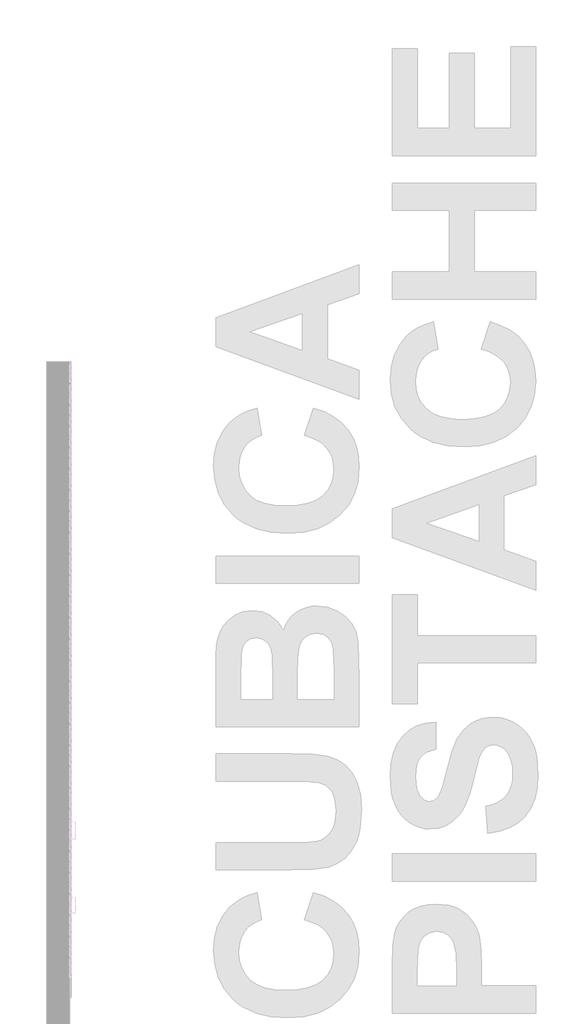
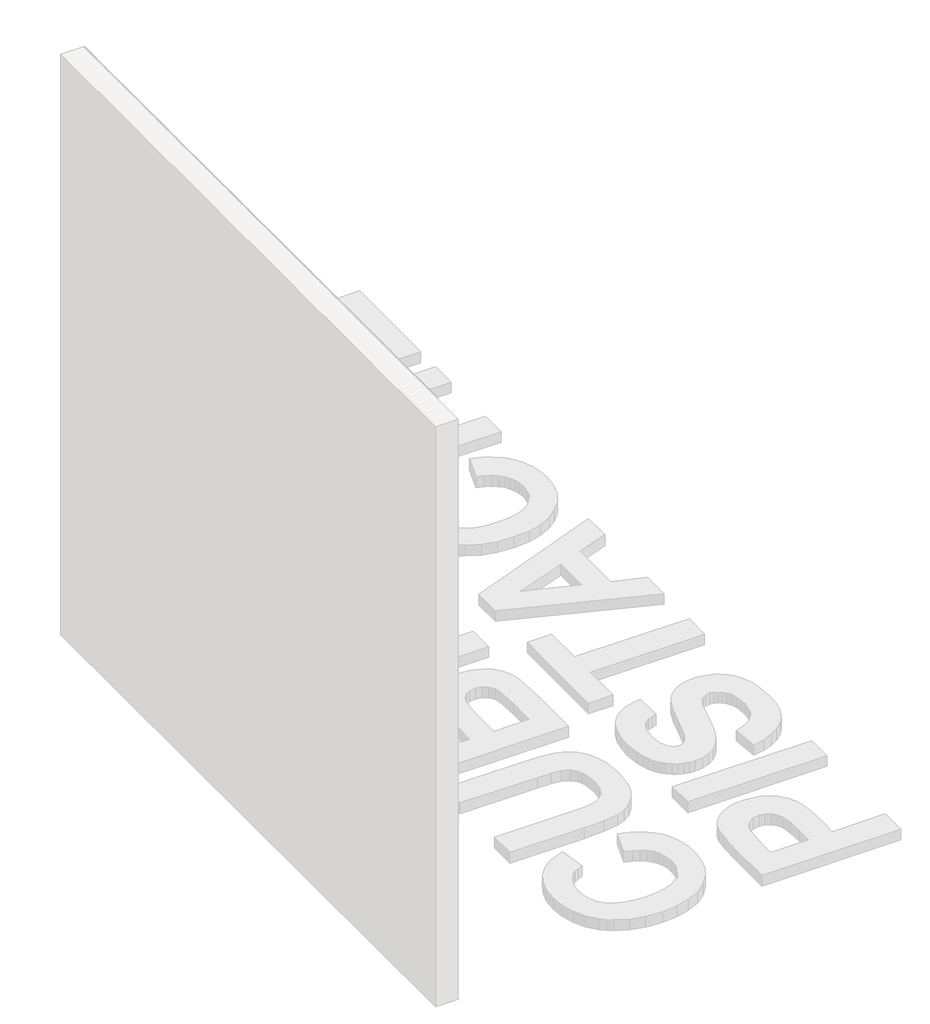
# One storey, part 96 of 121: 143 proxies.
"""IFC4 building model written with IfcOpenShell, lengths in millimetres."""

from ifc_helpers import new_model, si_unit, origin, place, context, project, spatial, transform, mapped, element, save
from components import generic_models_b2b2c5c1, generic_models_9bf73f6f, generic_models_5d175859, generic_models_336a48c1, generic_models_3c04e8e5, generic_models_0bb79e7c, generic_models_61989c10

model = new_model("IFC4")

# Units and contexts
model_context = context("Model", 3, world=origin())
ifc_project = project(units=[si_unit("LENGTHUNIT", "METRE", prefix="MILLI")], contexts=[model_context])

# Site, building, storey
site = spatial("IfcSite", under=ifc_project)
building = spatial("IfcBuilding", under=site)
storey = spatial("IfcBuildingStorey", under=building, Name="PORTOBELLO - SHOWROOM", Elevation=0.0)

# Proxies
placement = place(None, origin())
generic_models_shape = generic_models_b2b2c5c1(model_context)
element("IfcBuildingElementProxy", 1, Name="PBSHOP - CUBICA PISTACHE 4,8X8,3 : CUBICA PISTACHE - POSIÇÃO 01", ObjectType="PBSHOP - CUBICA PISTACHE 4,8X8,3 : CUBICA PISTACHE - POSIÇÃO 01", at=placement, inside=storey, context=model_context, shape_type="MappedRepresentation", body=[
    mapped(generic_models_shape, transform((150369.5341846, 15340.0472844, 1933.8534878), x_axis=(0.0, 1.0, 0.0), y_axis=(0.0, 0.0, 1.0), z_axis=(1.0, 0.0, 0.0))),
])
element("IfcBuildingElementProxy", 2, Name="PBSHOP - CUBICA PISTACHE 4,8X8,3 : CUBICA PISTACHE - POSIÇÃO 01", ObjectType="PBSHOP - CUBICA PISTACHE 4,8X8,3 : CUBICA PISTACHE - POSIÇÃO 01", at=placement, inside=storey, context=model_context, shape_type="MappedRepresentation", body=[
    mapped(generic_models_shape, transform((150369.5341846, 15430.8865536, 1933.8534878), x_axis=(0.0, 1.0, 0.0), y_axis=(0.0, 0.0, 1.0), z_axis=(1.0, 0.0, 0.0))),
])
element("IfcBuildingElementProxy", 3, Name="PBSHOP - CUBICA PISTACHE 4,8X8,3 : CUBICA PISTACHE - POSIÇÃO 01", ObjectType="PBSHOP - CUBICA PISTACHE 4,8X8,3 : CUBICA PISTACHE - POSIÇÃO 01", at=placement, inside=storey, context=model_context, shape_type="MappedRepresentation", body=[
    mapped(generic_models_shape, transform((150369.5341846, 15521.7258229, 1933.8534878), x_axis=(0.0, 1.0, 0.0), y_axis=(0.0, 0.0, 1.0), z_axis=(1.0, 0.0, 0.0))),
])
element("IfcBuildingElementProxy", 4, Name="PBSHOP - CUBICA PISTACHE 4,8X8,3 : CUBICA PISTACHE - POSIÇÃO 01", ObjectType="PBSHOP - CUBICA PISTACHE 4,8X8,3 : CUBICA PISTACHE - POSIÇÃO 01", at=placement, inside=storey, context=model_context, shape_type="MappedRepresentation", body=[
    mapped(generic_models_shape, transform((150369.5341846, 15022.109842, 2012.7881262), x_axis=(0.0, 1.0, 0.0), y_axis=(0.0, 0.0, 1.0), z_axis=(1.0, 0.0, 0.0))),
])
element("IfcBuildingElementProxy", 5, Name="PBSHOP - CUBICA PISTACHE 4,8X8,3 : CUBICA PISTACHE - POSIÇÃO 01", ObjectType="PBSHOP - CUBICA PISTACHE 4,8X8,3 : CUBICA PISTACHE - POSIÇÃO 01", at=placement, inside=storey, context=model_context, shape_type="MappedRepresentation", body=[
    mapped(generic_models_shape, transform((150369.5341846, 15112.9491113, 2012.7881262), x_axis=(0.0, 1.0, 0.0), y_axis=(0.0, 0.0, 1.0), z_axis=(1.0, 0.0, 0.0))),
])
element("IfcBuildingElementProxy", 6, Name="PBSHOP - CUBICA PISTACHE 4,8X8,3 : CUBICA PISTACHE - POSIÇÃO 01", ObjectType="PBSHOP - CUBICA PISTACHE 4,8X8,3 : CUBICA PISTACHE - POSIÇÃO 01", at=placement, inside=storey, context=model_context, shape_type="MappedRepresentation", body=[
    mapped(generic_models_shape, transform((150369.5341846, 15203.7883805, 2012.7881262), x_axis=(0.0, 1.0, 0.0), y_axis=(0.0, 0.0, 1.0), z_axis=(1.0, 0.0, 0.0))),
])
element("IfcBuildingElementProxy", 7, Name="PBSHOP - CUBICA PISTACHE 4,8X8,3 : CUBICA PISTACHE - POSIÇÃO 01", ObjectType="PBSHOP - CUBICA PISTACHE 4,8X8,3 : CUBICA PISTACHE - POSIÇÃO 01", at=placement, inside=storey, context=model_context, shape_type="MappedRepresentation", body=[
    mapped(generic_models_shape, transform((150369.5341846, 15294.6276498, 2012.7881262), x_axis=(0.0, 1.0, 0.0), y_axis=(0.0, 0.0, 1.0), z_axis=(1.0, 0.0, 0.0))),
])
element("IfcBuildingElementProxy", 8, Name="PBSHOP - CUBICA PISTACHE 4,8X8,3 : CUBICA PISTACHE - POSIÇÃO 01", ObjectType="PBSHOP - CUBICA PISTACHE 4,8X8,3 : CUBICA PISTACHE - POSIÇÃO 01", at=placement, inside=storey, context=model_context, shape_type="MappedRepresentation", body=[
    mapped(generic_models_shape, transform((150369.5341846, 15385.466919, 2012.7881262), x_axis=(0.0, 1.0, 0.0), y_axis=(0.0, 0.0, 1.0), z_axis=(1.0, 0.0, 0.0))),
])
element("IfcBuildingElementProxy", 9, Name="PBSHOP - CUBICA PISTACHE 4,8X8,3 : CUBICA PISTACHE - POSIÇÃO 01", ObjectType="PBSHOP - CUBICA PISTACHE 4,8X8,3 : CUBICA PISTACHE - POSIÇÃO 01", at=placement, inside=storey, context=model_context, shape_type="MappedRepresentation", body=[
    mapped(generic_models_shape, transform((150369.5341846, 15476.3061883, 2012.7881262), x_axis=(0.0, 1.0, 0.0), y_axis=(0.0, 0.0, 1.0), z_axis=(1.0, 0.0, 0.0))),
])
element("IfcBuildingElementProxy", 10, Name="PBSHOP - CUBICA PISTACHE 4,8X8,3 : CUBICA PISTACHE - POSIÇÃO 01", ObjectType="PBSHOP - CUBICA PISTACHE 4,8X8,3 : CUBICA PISTACHE - POSIÇÃO 01", at=placement, inside=storey, context=model_context, shape_type="MappedRepresentation", body=[
    mapped(generic_models_shape, transform((150369.5341846, 15567.1454575, 2012.7881262), x_axis=(0.0, 1.0, 0.0), y_axis=(0.0, 0.0, 1.0), z_axis=(1.0, 0.0, 0.0))),
])
element("IfcBuildingElementProxy", 11, Name="PBSHOP - CUBICA PISTACHE 4,8X8,3 : CUBICA PISTACHE - POSIÇÃO 01", ObjectType="PBSHOP - CUBICA PISTACHE 4,8X8,3 : CUBICA PISTACHE - POSIÇÃO 01", at=placement, inside=storey, context=model_context, shape_type="MappedRepresentation", body=[
    mapped(generic_models_shape, transform((150369.5341846, 15067.5294767, 2091.7227645), x_axis=(0.0, 1.0, 0.0), y_axis=(0.0, 0.0, 1.0), z_axis=(1.0, 0.0, 0.0))),
])
element("IfcBuildingElementProxy", 12, Name="PBSHOP - CUBICA PISTACHE 4,8X8,3 : CUBICA PISTACHE - POSIÇÃO 01", ObjectType="PBSHOP - CUBICA PISTACHE 4,8X8,3 : CUBICA PISTACHE - POSIÇÃO 01", at=placement, inside=storey, context=model_context, shape_type="MappedRepresentation", body=[
    mapped(generic_models_shape, transform((150369.5341846, 15158.3687459, 2091.7227645), x_axis=(0.0, 1.0, 0.0), y_axis=(0.0, 0.0, 1.0), z_axis=(1.0, 0.0, 0.0))),
])
element("IfcBuildingElementProxy", 13, Name="PBSHOP - CUBICA PISTACHE 4,8X8,3 : CUBICA PISTACHE - POSIÇÃO 01", ObjectType="PBSHOP - CUBICA PISTACHE 4,8X8,3 : CUBICA PISTACHE - POSIÇÃO 01", at=placement, inside=storey, context=model_context, shape_type="MappedRepresentation", body=[
    mapped(generic_models_shape, transform((150369.5341846, 15249.2080152, 2091.7227645), x_axis=(0.0, 1.0, 0.0), y_axis=(0.0, 0.0, 1.0), z_axis=(1.0, 0.0, 0.0))),
])
element("IfcBuildingElementProxy", 14, Name="PBSHOP - CUBICA PISTACHE 4,8X8,3 : CUBICA PISTACHE - POSIÇÃO 01", ObjectType="PBSHOP - CUBICA PISTACHE 4,8X8,3 : CUBICA PISTACHE - POSIÇÃO 01", at=placement, inside=storey, context=model_context, shape_type="MappedRepresentation", body=[
    mapped(generic_models_shape, transform((150369.5341846, 15340.0472844, 2091.7227645), x_axis=(0.0, 1.0, 0.0), y_axis=(0.0, 0.0, 1.0), z_axis=(1.0, 0.0, 0.0))),
])
element("IfcBuildingElementProxy", 15, Name="PBSHOP - CUBICA PISTACHE 4,8X8,3 : CUBICA PISTACHE - POSIÇÃO 01", ObjectType="PBSHOP - CUBICA PISTACHE 4,8X8,3 : CUBICA PISTACHE - POSIÇÃO 01", at=placement, inside=storey, context=model_context, shape_type="MappedRepresentation", body=[
    mapped(generic_models_shape, transform((150369.5341846, 15430.8865536, 2091.7227645), x_axis=(0.0, 1.0, 0.0), y_axis=(0.0, 0.0, 1.0), z_axis=(1.0, 0.0, 0.0))),
])
element("IfcBuildingElementProxy", 16, Name="PBSHOP - CUBICA PISTACHE 4,8X8,3 : CUBICA PISTACHE - POSIÇÃO 01", ObjectType="PBSHOP - CUBICA PISTACHE 4,8X8,3 : CUBICA PISTACHE - POSIÇÃO 01", at=placement, inside=storey, context=model_context, shape_type="MappedRepresentation", body=[
    mapped(generic_models_shape, transform((150369.5341846, 15521.7258229, 2091.7227645), x_axis=(0.0, 1.0, 0.0), y_axis=(0.0, 0.0, 1.0), z_axis=(1.0, 0.0, 0.0))),
])
element("IfcBuildingElementProxy", 17, Name="PBSHOP - CUBICA PISTACHE 4,8X8,3 : CUBICA PISTACHE - POSIÇÃO 01", ObjectType="PBSHOP - CUBICA PISTACHE 4,8X8,3 : CUBICA PISTACHE - POSIÇÃO 01", at=placement, inside=storey, context=model_context, shape_type="MappedRepresentation", body=[
    mapped(generic_models_shape, transform((150369.5341846, 15022.109842, 2170.6574029), x_axis=(0.0, 1.0, 0.0), y_axis=(0.0, 0.0, 1.0), z_axis=(1.0, 0.0, 0.0))),
])
element("IfcBuildingElementProxy", 18, Name="PBSHOP - CUBICA PISTACHE 4,8X8,3 : CUBICA PISTACHE - POSIÇÃO 01", ObjectType="PBSHOP - CUBICA PISTACHE 4,8X8,3 : CUBICA PISTACHE - POSIÇÃO 01", at=placement, inside=storey, context=model_context, shape_type="MappedRepresentation", body=[
    mapped(generic_models_shape, transform((150369.5341846, 15112.9491113, 2170.6574029), x_axis=(0.0, 1.0, 0.0), y_axis=(0.0, 0.0, 1.0), z_axis=(1.0, 0.0, 0.0))),
])
element("IfcBuildingElementProxy", 19, Name="PBSHOP - CUBICA PISTACHE 4,8X8,3 : CUBICA PISTACHE - POSIÇÃO 01", ObjectType="PBSHOP - CUBICA PISTACHE 4,8X8,3 : CUBICA PISTACHE - POSIÇÃO 01", at=placement, inside=storey, context=model_context, shape_type="MappedRepresentation", body=[
    mapped(generic_models_shape, transform((150369.5341846, 15203.7883805, 2170.6574029), x_axis=(0.0, 1.0, 0.0), y_axis=(0.0, 0.0, 1.0), z_axis=(1.0, 0.0, 0.0))),
])
element("IfcBuildingElementProxy", 20, Name="PBSHOP - CUBICA PISTACHE 4,8X8,3 : CUBICA PISTACHE - POSIÇÃO 01", ObjectType="PBSHOP - CUBICA PISTACHE 4,8X8,3 : CUBICA PISTACHE - POSIÇÃO 01", at=placement, inside=storey, context=model_context, shape_type="MappedRepresentation", body=[
    mapped(generic_models_shape, transform((150369.5341846, 15294.6276498, 2170.6574029), x_axis=(0.0, 1.0, 0.0), y_axis=(0.0, 0.0, 1.0), z_axis=(1.0, 0.0, 0.0))),
])
element("IfcBuildingElementProxy", 21, Name="PBSHOP - CUBICA PISTACHE 4,8X8,3 : CUBICA PISTACHE - POSIÇÃO 01", ObjectType="PBSHOP - CUBICA PISTACHE 4,8X8,3 : CUBICA PISTACHE - POSIÇÃO 01", at=placement, inside=storey, context=model_context, shape_type="MappedRepresentation", body=[
    mapped(generic_models_shape, transform((150369.5341846, 15385.466919, 2170.6574029), x_axis=(0.0, 1.0, 0.0), y_axis=(0.0, 0.0, 1.0), z_axis=(1.0, 0.0, 0.0))),
])
element("IfcBuildingElementProxy", 22, Name="PBSHOP - CUBICA PISTACHE 4,8X8,3 : CUBICA PISTACHE - POSIÇÃO 01", ObjectType="PBSHOP - CUBICA PISTACHE 4,8X8,3 : CUBICA PISTACHE - POSIÇÃO 01", at=placement, inside=storey, context=model_context, shape_type="MappedRepresentation", body=[
    mapped(generic_models_shape, transform((150369.5341846, 15476.3061883, 2170.6574029), x_axis=(0.0, 1.0, 0.0), y_axis=(0.0, 0.0, 1.0), z_axis=(1.0, 0.0, 0.0))),
])
element("IfcBuildingElementProxy", 23, Name="PBSHOP - CUBICA PISTACHE 4,8X8,3 : CUBICA PISTACHE - POSIÇÃO 01", ObjectType="PBSHOP - CUBICA PISTACHE 4,8X8,3 : CUBICA PISTACHE - POSIÇÃO 01", at=placement, inside=storey, context=model_context, shape_type="MappedRepresentation", body=[
    mapped(generic_models_shape, transform((150369.5341846, 15567.1454575, 2170.6574029), x_axis=(0.0, 1.0, 0.0), y_axis=(0.0, 0.0, 1.0), z_axis=(1.0, 0.0, 0.0))),
])
element("IfcBuildingElementProxy", 24, Name="PBSHOP - CUBICA PISTACHE 4,8X8,3 : CUBICA PISTACHE - POSIÇÃO 01", ObjectType="PBSHOP - CUBICA PISTACHE 4,8X8,3 : CUBICA PISTACHE - POSIÇÃO 01", at=placement, inside=storey, context=model_context, shape_type="MappedRepresentation", body=[
    mapped(generic_models_shape, transform((150369.5341846, 15067.5294767, 2249.5920413), x_axis=(0.0, 1.0, 0.0), y_axis=(0.0, 0.0, 1.0), z_axis=(1.0, 0.0, 0.0))),
])
element("IfcBuildingElementProxy", 25, Name="PBSHOP - CUBICA PISTACHE 4,8X8,3 : CUBICA PISTACHE - POSIÇÃO 01", ObjectType="PBSHOP - CUBICA PISTACHE 4,8X8,3 : CUBICA PISTACHE - POSIÇÃO 01", at=placement, inside=storey, context=model_context, shape_type="MappedRepresentation", body=[
    mapped(generic_models_shape, transform((150369.5341846, 15158.3687459, 2249.5920413), x_axis=(0.0, 1.0, 0.0), y_axis=(0.0, 0.0, 1.0), z_axis=(1.0, 0.0, 0.0))),
])
element("IfcBuildingElementProxy", 26, Name="PBSHOP - CUBICA PISTACHE 4,8X8,3 : CUBICA PISTACHE - POSIÇÃO 01", ObjectType="PBSHOP - CUBICA PISTACHE 4,8X8,3 : CUBICA PISTACHE - POSIÇÃO 01", at=placement, inside=storey, context=model_context, shape_type="MappedRepresentation", body=[
    mapped(generic_models_shape, transform((150369.5341846, 15249.2080152, 2249.5920413), x_axis=(0.0, 1.0, 0.0), y_axis=(0.0, 0.0, 1.0), z_axis=(1.0, 0.0, 0.0))),
])
element("IfcBuildingElementProxy", 27, Name="PBSHOP - CUBICA PISTACHE 4,8X8,3 : CUBICA PISTACHE - POSIÇÃO 01", ObjectType="PBSHOP - CUBICA PISTACHE 4,8X8,3 : CUBICA PISTACHE - POSIÇÃO 01", at=placement, inside=storey, context=model_context, shape_type="MappedRepresentation", body=[
    mapped(generic_models_shape, transform((150369.5341846, 15340.0472844, 2249.5920413), x_axis=(0.0, 1.0, 0.0), y_axis=(0.0, 0.0, 1.0), z_axis=(1.0, 0.0, 0.0))),
])
element("IfcBuildingElementProxy", 28, Name="PBSHOP - CUBICA PISTACHE 4,8X8,3 : CUBICA PISTACHE - POSIÇÃO 01", ObjectType="PBSHOP - CUBICA PISTACHE 4,8X8,3 : CUBICA PISTACHE - POSIÇÃO 01", at=placement, inside=storey, context=model_context, shape_type="MappedRepresentation", body=[
    mapped(generic_models_shape, transform((150369.5341846, 15430.8865536, 2249.5920413), x_axis=(0.0, 1.0, 0.0), y_axis=(0.0, 0.0, 1.0), z_axis=(1.0, 0.0, 0.0))),
])
element("IfcBuildingElementProxy", 29, Name="PBSHOP - CUBICA PISTACHE 4,8X8,3 : CUBICA PISTACHE - POSIÇÃO 01", ObjectType="PBSHOP - CUBICA PISTACHE 4,8X8,3 : CUBICA PISTACHE - POSIÇÃO 01", at=placement, inside=storey, context=model_context, shape_type="MappedRepresentation", body=[
    mapped(generic_models_shape, transform((150369.5341846, 15521.7258229, 2249.5920413), x_axis=(0.0, 1.0, 0.0), y_axis=(0.0, 0.0, 1.0), z_axis=(1.0, 0.0, 0.0))),
])
element("IfcBuildingElementProxy", 30, Name="PBSHOP - CUBICA PISTACHE 4,8X8,3 : CUBICA PISTACHE - POSIÇÃO 01", ObjectType="PBSHOP - CUBICA PISTACHE 4,8X8,3 : CUBICA PISTACHE - POSIÇÃO 01", at=placement, inside=storey, context=model_context, shape_type="MappedRepresentation", body=[
    mapped(generic_models_shape, transform((150369.5341846, 15022.109842, 2328.5266797), x_axis=(0.0, 1.0, 0.0), y_axis=(0.0, 0.0, 1.0), z_axis=(1.0, 0.0, 0.0))),
])
element("IfcBuildingElementProxy", 31, Name="PBSHOP - CUBICA PISTACHE 4,8X8,3 : CUBICA PISTACHE - POSIÇÃO 01", ObjectType="PBSHOP - CUBICA PISTACHE 4,8X8,3 : CUBICA PISTACHE - POSIÇÃO 01", at=placement, inside=storey, context=model_context, shape_type="MappedRepresentation", body=[
    mapped(generic_models_shape, transform((150369.5341846, 15112.9491113, 2328.5266797), x_axis=(0.0, 1.0, 0.0), y_axis=(0.0, 0.0, 1.0), z_axis=(1.0, 0.0, 0.0))),
])
element("IfcBuildingElementProxy", 32, Name="PBSHOP - CUBICA PISTACHE 4,8X8,3 : CUBICA PISTACHE - POSIÇÃO 01", ObjectType="PBSHOP - CUBICA PISTACHE 4,8X8,3 : CUBICA PISTACHE - POSIÇÃO 01", at=placement, inside=storey, context=model_context, shape_type="MappedRepresentation", body=[
    mapped(generic_models_shape, transform((150369.5341846, 15203.7883805, 2328.5266797), x_axis=(0.0, 1.0, 0.0), y_axis=(0.0, 0.0, 1.0), z_axis=(1.0, 0.0, 0.0))),
])
element("IfcBuildingElementProxy", 33, Name="PBSHOP - CUBICA PISTACHE 4,8X8,3 : CUBICA PISTACHE - POSIÇÃO 01", ObjectType="PBSHOP - CUBICA PISTACHE 4,8X8,3 : CUBICA PISTACHE - POSIÇÃO 01", at=placement, inside=storey, context=model_context, shape_type="MappedRepresentation", body=[
    mapped(generic_models_shape, transform((150369.5341846, 15294.6276498, 2328.5266797), x_axis=(0.0, 1.0, 0.0), y_axis=(0.0, 0.0, 1.0), z_axis=(1.0, 0.0, 0.0))),
])
element("IfcBuildingElementProxy", 34, Name="PBSHOP - CUBICA PISTACHE 4,8X8,3 : CUBICA PISTACHE - POSIÇÃO 01", ObjectType="PBSHOP - CUBICA PISTACHE 4,8X8,3 : CUBICA PISTACHE - POSIÇÃO 01", at=placement, inside=storey, context=model_context, shape_type="MappedRepresentation", body=[
    mapped(generic_models_shape, transform((150369.5341846, 15385.466919, 2328.5266797), x_axis=(0.0, 1.0, 0.0), y_axis=(0.0, 0.0, 1.0), z_axis=(1.0, 0.0, 0.0))),
])
element("IfcBuildingElementProxy", 35, Name="PBSHOP - CUBICA PISTACHE 4,8X8,3 : CUBICA PISTACHE - POSIÇÃO 01", ObjectType="PBSHOP - CUBICA PISTACHE 4,8X8,3 : CUBICA PISTACHE - POSIÇÃO 01", at=placement, inside=storey, context=model_context, shape_type="MappedRepresentation", body=[
    mapped(generic_models_shape, transform((150369.5341846, 15476.3061883, 2328.5266797), x_axis=(0.0, 1.0, 0.0), y_axis=(0.0, 0.0, 1.0), z_axis=(1.0, 0.0, 0.0))),
])
element("IfcBuildingElementProxy", 36, Name="PBSHOP - CUBICA PISTACHE 4,8X8,3 : CUBICA PISTACHE - POSIÇÃO 01", ObjectType="PBSHOP - CUBICA PISTACHE 4,8X8,3 : CUBICA PISTACHE - POSIÇÃO 01", at=placement, inside=storey, context=model_context, shape_type="MappedRepresentation", body=[
    mapped(generic_models_shape, transform((150369.5341846, 15567.1454575, 2328.5266797), x_axis=(0.0, 1.0, 0.0), y_axis=(0.0, 0.0, 1.0), z_axis=(1.0, 0.0, 0.0))),
])
element("IfcBuildingElementProxy", 37, Name="PBSHOP - CUBICA PISTACHE 4,8X8,3 : CUBICA PISTACHE - POSIÇÃO 01", ObjectType="PBSHOP - CUBICA PISTACHE 4,8X8,3 : CUBICA PISTACHE - POSIÇÃO 01", at=placement, inside=storey, context=model_context, shape_type="MappedRepresentation", body=[
    mapped(generic_models_shape, transform((150369.5341846, 15067.5294767, 2407.461318), x_axis=(0.0, 1.0, 0.0), y_axis=(0.0, 0.0, 1.0), z_axis=(1.0, 0.0, 0.0))),
])
element("IfcBuildingElementProxy", 38, Name="PBSHOP - CUBICA PISTACHE 4,8X8,3 : CUBICA PISTACHE - POSIÇÃO 01", ObjectType="PBSHOP - CUBICA PISTACHE 4,8X8,3 : CUBICA PISTACHE - POSIÇÃO 01", at=placement, inside=storey, context=model_context, shape_type="MappedRepresentation", body=[
    mapped(generic_models_shape, transform((150369.5341846, 15158.3687459, 2407.461318), x_axis=(0.0, 1.0, 0.0), y_axis=(0.0, 0.0, 1.0), z_axis=(1.0, 0.0, 0.0))),
])
element("IfcBuildingElementProxy", 39, Name="PBSHOP - CUBICA PISTACHE 4,8X8,3 : CUBICA PISTACHE - POSIÇÃO 01", ObjectType="PBSHOP - CUBICA PISTACHE 4,8X8,3 : CUBICA PISTACHE - POSIÇÃO 01", at=placement, inside=storey, context=model_context, shape_type="MappedRepresentation", body=[
    mapped(generic_models_shape, transform((150369.5341846, 15249.2080152, 2407.461318), x_axis=(0.0, 1.0, 0.0), y_axis=(0.0, 0.0, 1.0), z_axis=(1.0, 0.0, 0.0))),
])
element("IfcBuildingElementProxy", 40, Name="PBSHOP - CUBICA PISTACHE 4,8X8,3 : CUBICA PISTACHE - POSIÇÃO 01", ObjectType="PBSHOP - CUBICA PISTACHE 4,8X8,3 : CUBICA PISTACHE - POSIÇÃO 01", at=placement, inside=storey, context=model_context, shape_type="MappedRepresentation", body=[
    mapped(generic_models_shape, transform((150369.5341846, 15340.0472844, 2407.461318), x_axis=(0.0, 1.0, 0.0), y_axis=(0.0, 0.0, 1.0), z_axis=(1.0, 0.0, 0.0))),
])
element("IfcBuildingElementProxy", 41, Name="PBSHOP - CUBICA PISTACHE 4,8X8,3 : CUBICA PISTACHE - POSIÇÃO 01", ObjectType="PBSHOP - CUBICA PISTACHE 4,8X8,3 : CUBICA PISTACHE - POSIÇÃO 01", at=placement, inside=storey, context=model_context, shape_type="MappedRepresentation", body=[
    mapped(generic_models_shape, transform((150369.5341846, 15430.8865536, 2407.461318), x_axis=(0.0, 1.0, 0.0), y_axis=(0.0, 0.0, 1.0), z_axis=(1.0, 0.0, 0.0))),
])
element("IfcBuildingElementProxy", 42, Name="PBSHOP - CUBICA PISTACHE 4,8X8,3 : CUBICA PISTACHE - POSIÇÃO 01", ObjectType="PBSHOP - CUBICA PISTACHE 4,8X8,3 : CUBICA PISTACHE - POSIÇÃO 01", at=placement, inside=storey, context=model_context, shape_type="MappedRepresentation", body=[
    mapped(generic_models_shape, transform((150369.5341846, 15521.7258229, 2407.461318), x_axis=(0.0, 1.0, 0.0), y_axis=(0.0, 0.0, 1.0), z_axis=(1.0, 0.0, 0.0))),
])
element("IfcBuildingElementProxy", 43, Name="PBSHOP - CUBICA PISTACHE 4,8X8,3 : CUBICA PISTACHE - POSIÇÃO 01", ObjectType="PBSHOP - CUBICA PISTACHE 4,8X8,3 : CUBICA PISTACHE - POSIÇÃO 01", at=placement, inside=storey, context=model_context, shape_type="MappedRepresentation", body=[
    mapped(generic_models_shape, transform((150369.5341846, 15022.109842, 2486.3959564), x_axis=(0.0, 1.0, 0.0), y_axis=(0.0, 0.0, 1.0), z_axis=(1.0, 0.0, 0.0))),
])
element("IfcBuildingElementProxy", 44, Name="PBSHOP - CUBICA PISTACHE 4,8X8,3 : CUBICA PISTACHE - POSIÇÃO 01", ObjectType="PBSHOP - CUBICA PISTACHE 4,8X8,3 : CUBICA PISTACHE - POSIÇÃO 01", at=placement, inside=storey, context=model_context, shape_type="MappedRepresentation", body=[
    mapped(generic_models_shape, transform((150369.5341846, 15112.9491113, 2486.3959564), x_axis=(0.0, 1.0, 0.0), y_axis=(0.0, 0.0, 1.0), z_axis=(1.0, 0.0, 0.0))),
])
generic_models_2_shape = generic_models_9bf73f6f(model_context)
element("IfcBuildingElementProxy", 45, Name="PBSHOP - CUBICA PISTACHE 4,8X8,3 : CUBICA PISTACHE - POSIÇÃO 03", ObjectType="PBSHOP - CUBICA PISTACHE 4,8X8,3 : CUBICA PISTACHE - POSIÇÃO 03", at=placement, inside=storey, context=model_context, shape_type="MappedRepresentation", body=[
    mapped(generic_models_2_shape, transform((150369.5341846, 15044.8218185, 1894.3449582), x_axis=(0.0, 1.0, 0.0), y_axis=(0.0, 0.0, 1.0), z_axis=(1.0, 0.0, 0.0))),
])
element("IfcBuildingElementProxy", 46, Name="PBSHOP - CUBICA PISTACHE 4,8X8,3 : CUBICA PISTACHE - POSIÇÃO 03", ObjectType="PBSHOP - CUBICA PISTACHE 4,8X8,3 : CUBICA PISTACHE - POSIÇÃO 03", at=placement, inside=storey, context=model_context, shape_type="MappedRepresentation", body=[
    mapped(generic_models_2_shape, transform((150369.5341846, 15135.6610878, 1894.3449582), x_axis=(0.0, 1.0, 0.0), y_axis=(0.0, 0.0, 1.0), z_axis=(1.0, 0.0, 0.0))),
])
element("IfcBuildingElementProxy", 47, Name="PBSHOP - CUBICA PISTACHE 4,8X8,3 : CUBICA PISTACHE - POSIÇÃO 03", ObjectType="PBSHOP - CUBICA PISTACHE 4,8X8,3 : CUBICA PISTACHE - POSIÇÃO 03", at=placement, inside=storey, context=model_context, shape_type="MappedRepresentation", body=[
    mapped(generic_models_2_shape, transform((150369.5341846, 15226.500357, 1894.3449582), x_axis=(0.0, 1.0, 0.0), y_axis=(0.0, 0.0, 1.0), z_axis=(1.0, 0.0, 0.0))),
])
element("IfcBuildingElementProxy", 48, Name="PBSHOP - CUBICA PISTACHE 4,8X8,3 : CUBICA PISTACHE - POSIÇÃO 03", ObjectType="PBSHOP - CUBICA PISTACHE 4,8X8,3 : CUBICA PISTACHE - POSIÇÃO 03", at=placement, inside=storey, context=model_context, shape_type="MappedRepresentation", body=[
    mapped(generic_models_2_shape, transform((150369.5341846, 15317.3396263, 1894.3449582), x_axis=(0.0, 1.0, 0.0), y_axis=(0.0, 0.0, 1.0), z_axis=(1.0, 0.0, 0.0))),
])
element("IfcBuildingElementProxy", 49, Name="PBSHOP - CUBICA PISTACHE 4,8X8,3 : CUBICA PISTACHE - POSIÇÃO 03", ObjectType="PBSHOP - CUBICA PISTACHE 4,8X8,3 : CUBICA PISTACHE - POSIÇÃO 03", at=placement, inside=storey, context=model_context, shape_type="MappedRepresentation", body=[
    mapped(generic_models_2_shape, transform((150369.5341846, 15408.1788955, 1894.3449582), x_axis=(0.0, 1.0, 0.0), y_axis=(0.0, 0.0, 1.0), z_axis=(1.0, 0.0, 0.0))),
])
element("IfcBuildingElementProxy", 50, Name="PBSHOP - CUBICA PISTACHE 4,8X8,3 : CUBICA PISTACHE - POSIÇÃO 03", ObjectType="PBSHOP - CUBICA PISTACHE 4,8X8,3 : CUBICA PISTACHE - POSIÇÃO 03", at=placement, inside=storey, context=model_context, shape_type="MappedRepresentation", body=[
    mapped(generic_models_2_shape, transform((150369.5341846, 15499.0181647, 1894.3449582), x_axis=(0.0, 1.0, 0.0), y_axis=(0.0, 0.0, 1.0), z_axis=(1.0, 0.0, 0.0))),
])
element("IfcBuildingElementProxy", 51, Name="PBSHOP - CUBICA PISTACHE 4,8X8,3 : CUBICA PISTACHE - POSIÇÃO 03", ObjectType="PBSHOP - CUBICA PISTACHE 4,8X8,3 : CUBICA PISTACHE - POSIÇÃO 03", at=placement, inside=storey, context=model_context, shape_type="MappedRepresentation", body=[
    mapped(generic_models_2_shape, transform((150369.5341846, 15090.2414531, 1973.2795966), x_axis=(0.0, 1.0, 0.0), y_axis=(0.0, 0.0, 1.0), z_axis=(1.0, 0.0, 0.0))),
])
element("IfcBuildingElementProxy", 52, Name="PBSHOP - CUBICA PISTACHE 4,8X8,3 : CUBICA PISTACHE - POSIÇÃO 03", ObjectType="PBSHOP - CUBICA PISTACHE 4,8X8,3 : CUBICA PISTACHE - POSIÇÃO 03", at=placement, inside=storey, context=model_context, shape_type="MappedRepresentation", body=[
    mapped(generic_models_2_shape, transform((150369.5341846, 15181.0807224, 1973.2795966), x_axis=(0.0, 1.0, 0.0), y_axis=(0.0, 0.0, 1.0), z_axis=(1.0, 0.0, 0.0))),
])
element("IfcBuildingElementProxy", 53, Name="PBSHOP - CUBICA PISTACHE 4,8X8,3 : CUBICA PISTACHE - POSIÇÃO 03", ObjectType="PBSHOP - CUBICA PISTACHE 4,8X8,3 : CUBICA PISTACHE - POSIÇÃO 03", at=placement, inside=storey, context=model_context, shape_type="MappedRepresentation", body=[
    mapped(generic_models_2_shape, transform((150369.5341846, 15271.9199916, 1973.2795966), x_axis=(0.0, 1.0, 0.0), y_axis=(0.0, 0.0, 1.0), z_axis=(1.0, 0.0, 0.0))),
])
element("IfcBuildingElementProxy", 54, Name="PBSHOP - CUBICA PISTACHE 4,8X8,3 : CUBICA PISTACHE - POSIÇÃO 03", ObjectType="PBSHOP - CUBICA PISTACHE 4,8X8,3 : CUBICA PISTACHE - POSIÇÃO 03", at=placement, inside=storey, context=model_context, shape_type="MappedRepresentation", body=[
    mapped(generic_models_2_shape, transform((150369.5341846, 15362.7592609, 1973.2795966), x_axis=(0.0, 1.0, 0.0), y_axis=(0.0, 0.0, 1.0), z_axis=(1.0, 0.0, 0.0))),
])
element("IfcBuildingElementProxy", 55, Name="PBSHOP - CUBICA PISTACHE 4,8X8,3 : CUBICA PISTACHE - POSIÇÃO 03", ObjectType="PBSHOP - CUBICA PISTACHE 4,8X8,3 : CUBICA PISTACHE - POSIÇÃO 03", at=placement, inside=storey, context=model_context, shape_type="MappedRepresentation", body=[
    mapped(generic_models_2_shape, transform((150369.5341846, 15453.5985301, 1973.2795966), x_axis=(0.0, 1.0, 0.0), y_axis=(0.0, 0.0, 1.0), z_axis=(1.0, 0.0, 0.0))),
])
element("IfcBuildingElementProxy", 56, Name="PBSHOP - CUBICA PISTACHE 4,8X8,3 : CUBICA PISTACHE - POSIÇÃO 03", ObjectType="PBSHOP - CUBICA PISTACHE 4,8X8,3 : CUBICA PISTACHE - POSIÇÃO 03", at=placement, inside=storey, context=model_context, shape_type="MappedRepresentation", body=[
    mapped(generic_models_2_shape, transform((150369.5341846, 15544.4377994, 1973.2795966), x_axis=(0.0, 1.0, 0.0), y_axis=(0.0, 0.0, 1.0), z_axis=(1.0, 0.0, 0.0))),
])
element("IfcBuildingElementProxy", 57, Name="PBSHOP - CUBICA PISTACHE 4,8X8,3 : CUBICA PISTACHE - POSIÇÃO 03", ObjectType="PBSHOP - CUBICA PISTACHE 4,8X8,3 : CUBICA PISTACHE - POSIÇÃO 03", at=placement, inside=storey, context=model_context, shape_type="MappedRepresentation", body=[
    mapped(generic_models_2_shape, transform((150369.5341846, 15044.8218185, 2052.2142349), x_axis=(0.0, 1.0, 0.0), y_axis=(0.0, 0.0, 1.0), z_axis=(1.0, 0.0, 0.0))),
])
element("IfcBuildingElementProxy", 58, Name="PBSHOP - CUBICA PISTACHE 4,8X8,3 : CUBICA PISTACHE - POSIÇÃO 03", ObjectType="PBSHOP - CUBICA PISTACHE 4,8X8,3 : CUBICA PISTACHE - POSIÇÃO 03", at=placement, inside=storey, context=model_context, shape_type="MappedRepresentation", body=[
    mapped(generic_models_2_shape, transform((150369.5341846, 15135.6610878, 2052.2142349), x_axis=(0.0, 1.0, 0.0), y_axis=(0.0, 0.0, 1.0), z_axis=(1.0, 0.0, 0.0))),
])
element("IfcBuildingElementProxy", 59, Name="PBSHOP - CUBICA PISTACHE 4,8X8,3 : CUBICA PISTACHE - POSIÇÃO 03", ObjectType="PBSHOP - CUBICA PISTACHE 4,8X8,3 : CUBICA PISTACHE - POSIÇÃO 03", at=placement, inside=storey, context=model_context, shape_type="MappedRepresentation", body=[
    mapped(generic_models_2_shape, transform((150369.5341846, 15226.500357, 2052.2142349), x_axis=(0.0, 1.0, 0.0), y_axis=(0.0, 0.0, 1.0), z_axis=(1.0, 0.0, 0.0))),
])
element("IfcBuildingElementProxy", 60, Name="PBSHOP - CUBICA PISTACHE 4,8X8,3 : CUBICA PISTACHE - POSIÇÃO 03", ObjectType="PBSHOP - CUBICA PISTACHE 4,8X8,3 : CUBICA PISTACHE - POSIÇÃO 03", at=placement, inside=storey, context=model_context, shape_type="MappedRepresentation", body=[
    mapped(generic_models_2_shape, transform((150369.5341846, 15317.3396263, 2052.2142349), x_axis=(0.0, 1.0, 0.0), y_axis=(0.0, 0.0, 1.0), z_axis=(1.0, 0.0, 0.0))),
])
element("IfcBuildingElementProxy", 61, Name="PBSHOP - CUBICA PISTACHE 4,8X8,3 : CUBICA PISTACHE - POSIÇÃO 03", ObjectType="PBSHOP - CUBICA PISTACHE 4,8X8,3 : CUBICA PISTACHE - POSIÇÃO 03", at=placement, inside=storey, context=model_context, shape_type="MappedRepresentation", body=[
    mapped(generic_models_2_shape, transform((150369.5341846, 15408.1788955, 2052.2142349), x_axis=(0.0, 1.0, 0.0), y_axis=(0.0, 0.0, 1.0), z_axis=(1.0, 0.0, 0.0))),
])
element("IfcBuildingElementProxy", 62, Name="PBSHOP - CUBICA PISTACHE 4,8X8,3 : CUBICA PISTACHE - POSIÇÃO 03", ObjectType="PBSHOP - CUBICA PISTACHE 4,8X8,3 : CUBICA PISTACHE - POSIÇÃO 03", at=placement, inside=storey, context=model_context, shape_type="MappedRepresentation", body=[
    mapped(generic_models_2_shape, transform((150369.5341846, 15499.0181647, 2052.2142349), x_axis=(0.0, 1.0, 0.0), y_axis=(0.0, 0.0, 1.0), z_axis=(1.0, 0.0, 0.0))),
])
element("IfcBuildingElementProxy", 63, Name="PBSHOP - CUBICA PISTACHE 4,8X8,3 : CUBICA PISTACHE - POSIÇÃO 03", ObjectType="PBSHOP - CUBICA PISTACHE 4,8X8,3 : CUBICA PISTACHE - POSIÇÃO 03", at=placement, inside=storey, context=model_context, shape_type="MappedRepresentation", body=[
    mapped(generic_models_2_shape, transform((150369.5341846, 15090.2414531, 2131.1488733), x_axis=(0.0, 1.0, 0.0), y_axis=(0.0, 0.0, 1.0), z_axis=(1.0, 0.0, 0.0))),
])
element("IfcBuildingElementProxy", 64, Name="PBSHOP - CUBICA PISTACHE 4,8X8,3 : CUBICA PISTACHE - POSIÇÃO 03", ObjectType="PBSHOP - CUBICA PISTACHE 4,8X8,3 : CUBICA PISTACHE - POSIÇÃO 03", at=placement, inside=storey, context=model_context, shape_type="MappedRepresentation", body=[
    mapped(generic_models_2_shape, transform((150369.5341846, 15181.0807224, 2131.1488733), x_axis=(0.0, 1.0, 0.0), y_axis=(0.0, 0.0, 1.0), z_axis=(1.0, 0.0, 0.0))),
])
element("IfcBuildingElementProxy", 65, Name="PBSHOP - CUBICA PISTACHE 4,8X8,3 : CUBICA PISTACHE - POSIÇÃO 03", ObjectType="PBSHOP - CUBICA PISTACHE 4,8X8,3 : CUBICA PISTACHE - POSIÇÃO 03", at=placement, inside=storey, context=model_context, shape_type="MappedRepresentation", body=[
    mapped(generic_models_2_shape, transform((150369.5341846, 15271.9199916, 2131.1488733), x_axis=(0.0, 1.0, 0.0), y_axis=(0.0, 0.0, 1.0), z_axis=(1.0, 0.0, 0.0))),
])
element("IfcBuildingElementProxy", 66, Name="PBSHOP - CUBICA PISTACHE 4,8X8,3 : CUBICA PISTACHE - POSIÇÃO 03", ObjectType="PBSHOP - CUBICA PISTACHE 4,8X8,3 : CUBICA PISTACHE - POSIÇÃO 03", at=placement, inside=storey, context=model_context, shape_type="MappedRepresentation", body=[
    mapped(generic_models_2_shape, transform((150369.5341846, 15362.7592609, 2131.1488733), x_axis=(0.0, 1.0, 0.0), y_axis=(0.0, 0.0, 1.0), z_axis=(1.0, 0.0, 0.0))),
])
element("IfcBuildingElementProxy", 67, Name="PBSHOP - CUBICA PISTACHE 4,8X8,3 : CUBICA PISTACHE - POSIÇÃO 03", ObjectType="PBSHOP - CUBICA PISTACHE 4,8X8,3 : CUBICA PISTACHE - POSIÇÃO 03", at=placement, inside=storey, context=model_context, shape_type="MappedRepresentation", body=[
    mapped(generic_models_2_shape, transform((150369.5341846, 15453.5985301, 2131.1488733), x_axis=(0.0, 1.0, 0.0), y_axis=(0.0, 0.0, 1.0), z_axis=(1.0, 0.0, 0.0))),
])
element("IfcBuildingElementProxy", 68, Name="PBSHOP - CUBICA PISTACHE 4,8X8,3 : CUBICA PISTACHE - POSIÇÃO 03", ObjectType="PBSHOP - CUBICA PISTACHE 4,8X8,3 : CUBICA PISTACHE - POSIÇÃO 03", at=placement, inside=storey, context=model_context, shape_type="MappedRepresentation", body=[
    mapped(generic_models_2_shape, transform((150369.5341846, 15544.4377994, 2131.1488733), x_axis=(0.0, 1.0, 0.0), y_axis=(0.0, 0.0, 1.0), z_axis=(1.0, 0.0, 0.0))),
])
element("IfcBuildingElementProxy", 69, Name="PBSHOP - CUBICA PISTACHE 4,8X8,3 : CUBICA PISTACHE - POSIÇÃO 03", ObjectType="PBSHOP - CUBICA PISTACHE 4,8X8,3 : CUBICA PISTACHE - POSIÇÃO 03", at=placement, inside=storey, context=model_context, shape_type="MappedRepresentation", body=[
    mapped(generic_models_2_shape, transform((150369.5341846, 15044.8218185, 2210.0835117), x_axis=(0.0, 1.0, 0.0), y_axis=(0.0, 0.0, 1.0), z_axis=(1.0, 0.0, 0.0))),
])
element("IfcBuildingElementProxy", 70, Name="PBSHOP - CUBICA PISTACHE 4,8X8,3 : CUBICA PISTACHE - POSIÇÃO 03", ObjectType="PBSHOP - CUBICA PISTACHE 4,8X8,3 : CUBICA PISTACHE - POSIÇÃO 03", at=placement, inside=storey, context=model_context, shape_type="MappedRepresentation", body=[
    mapped(generic_models_2_shape, transform((150369.5341846, 15135.6610878, 2210.0835117), x_axis=(0.0, 1.0, 0.0), y_axis=(0.0, 0.0, 1.0), z_axis=(1.0, 0.0, 0.0))),
])
element("IfcBuildingElementProxy", 71, Name="PBSHOP - CUBICA PISTACHE 4,8X8,3 : CUBICA PISTACHE - POSIÇÃO 03", ObjectType="PBSHOP - CUBICA PISTACHE 4,8X8,3 : CUBICA PISTACHE - POSIÇÃO 03", at=placement, inside=storey, context=model_context, shape_type="MappedRepresentation", body=[
    mapped(generic_models_2_shape, transform((150369.5341846, 15226.500357, 2210.0835117), x_axis=(0.0, 1.0, 0.0), y_axis=(0.0, 0.0, 1.0), z_axis=(1.0, 0.0, 0.0))),
])
element("IfcBuildingElementProxy", 72, Name="PBSHOP - CUBICA PISTACHE 4,8X8,3 : CUBICA PISTACHE - POSIÇÃO 03", ObjectType="PBSHOP - CUBICA PISTACHE 4,8X8,3 : CUBICA PISTACHE - POSIÇÃO 03", at=placement, inside=storey, context=model_context, shape_type="MappedRepresentation", body=[
    mapped(generic_models_2_shape, transform((150369.5341846, 15317.3396263, 2210.0835117), x_axis=(0.0, 1.0, 0.0), y_axis=(0.0, 0.0, 1.0), z_axis=(1.0, 0.0, 0.0))),
])
element("IfcBuildingElementProxy", 73, Name="PBSHOP - CUBICA PISTACHE 4,8X8,3 : CUBICA PISTACHE - POSIÇÃO 03", ObjectType="PBSHOP - CUBICA PISTACHE 4,8X8,3 : CUBICA PISTACHE - POSIÇÃO 03", at=placement, inside=storey, context=model_context, shape_type="MappedRepresentation", body=[
    mapped(generic_models_2_shape, transform((150369.5341846, 15408.1788955, 2210.0835117), x_axis=(0.0, 1.0, 0.0), y_axis=(0.0, 0.0, 1.0), z_axis=(1.0, 0.0, 0.0))),
])
element("IfcBuildingElementProxy", 74, Name="PBSHOP - CUBICA PISTACHE 4,8X8,3 : CUBICA PISTACHE - POSIÇÃO 03", ObjectType="PBSHOP - CUBICA PISTACHE 4,8X8,3 : CUBICA PISTACHE - POSIÇÃO 03", at=placement, inside=storey, context=model_context, shape_type="MappedRepresentation", body=[
    mapped(generic_models_2_shape, transform((150369.5341846, 15499.0181647, 2210.0835117), x_axis=(0.0, 1.0, 0.0), y_axis=(0.0, 0.0, 1.0), z_axis=(1.0, 0.0, 0.0))),
])
element("IfcBuildingElementProxy", 75, Name="PBSHOP - CUBICA PISTACHE 4,8X8,3 : CUBICA PISTACHE - POSIÇÃO 03", ObjectType="PBSHOP - CUBICA PISTACHE 4,8X8,3 : CUBICA PISTACHE - POSIÇÃO 03", at=placement, inside=storey, context=model_context, shape_type="MappedRepresentation", body=[
    mapped(generic_models_2_shape, transform((150369.5341846, 15090.2414531, 2289.0181501), x_axis=(0.0, 1.0, 0.0), y_axis=(0.0, 0.0, 1.0), z_axis=(1.0, 0.0, 0.0))),
])
element("IfcBuildingElementProxy", 76, Name="PBSHOP - CUBICA PISTACHE 4,8X8,3 : CUBICA PISTACHE - POSIÇÃO 03", ObjectType="PBSHOP - CUBICA PISTACHE 4,8X8,3 : CUBICA PISTACHE - POSIÇÃO 03", at=placement, inside=storey, context=model_context, shape_type="MappedRepresentation", body=[
    mapped(generic_models_2_shape, transform((150369.5341846, 15181.0807224, 2289.0181501), x_axis=(0.0, 1.0, 0.0), y_axis=(0.0, 0.0, 1.0), z_axis=(1.0, 0.0, 0.0))),
])
element("IfcBuildingElementProxy", 77, Name="PBSHOP - CUBICA PISTACHE 4,8X8,3 : CUBICA PISTACHE - POSIÇÃO 03", ObjectType="PBSHOP - CUBICA PISTACHE 4,8X8,3 : CUBICA PISTACHE - POSIÇÃO 03", at=placement, inside=storey, context=model_context, shape_type="MappedRepresentation", body=[
    mapped(generic_models_2_shape, transform((150369.5341846, 15271.9199916, 2289.0181501), x_axis=(0.0, 1.0, 0.0), y_axis=(0.0, 0.0, 1.0), z_axis=(1.0, 0.0, 0.0))),
])
element("IfcBuildingElementProxy", 78, Name="PBSHOP - CUBICA PISTACHE 4,8X8,3 : CUBICA PISTACHE - POSIÇÃO 03", ObjectType="PBSHOP - CUBICA PISTACHE 4,8X8,3 : CUBICA PISTACHE - POSIÇÃO 03", at=placement, inside=storey, context=model_context, shape_type="MappedRepresentation", body=[
    mapped(generic_models_2_shape, transform((150369.5341846, 15362.7592609, 2289.0181501), x_axis=(0.0, 1.0, 0.0), y_axis=(0.0, 0.0, 1.0), z_axis=(1.0, 0.0, 0.0))),
])
element("IfcBuildingElementProxy", 79, Name="PBSHOP - CUBICA PISTACHE 4,8X8,3 : CUBICA PISTACHE - POSIÇÃO 03", ObjectType="PBSHOP - CUBICA PISTACHE 4,8X8,3 : CUBICA PISTACHE - POSIÇÃO 03", at=placement, inside=storey, context=model_context, shape_type="MappedRepresentation", body=[
    mapped(generic_models_2_shape, transform((150369.5341846, 15453.5985301, 2289.0181501), x_axis=(0.0, 1.0, 0.0), y_axis=(0.0, 0.0, 1.0), z_axis=(1.0, 0.0, 0.0))),
])
element("IfcBuildingElementProxy", 80, Name="PBSHOP - CUBICA PISTACHE 4,8X8,3 : CUBICA PISTACHE - POSIÇÃO 03", ObjectType="PBSHOP - CUBICA PISTACHE 4,8X8,3 : CUBICA PISTACHE - POSIÇÃO 03", at=placement, inside=storey, context=model_context, shape_type="MappedRepresentation", body=[
    mapped(generic_models_2_shape, transform((150369.5341846, 15544.4377994, 2289.0181501), x_axis=(0.0, 1.0, 0.0), y_axis=(0.0, 0.0, 1.0), z_axis=(1.0, 0.0, 0.0))),
])
element("IfcBuildingElementProxy", 81, Name="PBSHOP - CUBICA PISTACHE 4,8X8,3 : CUBICA PISTACHE - POSIÇÃO 03", ObjectType="PBSHOP - CUBICA PISTACHE 4,8X8,3 : CUBICA PISTACHE - POSIÇÃO 03", at=placement, inside=storey, context=model_context, shape_type="MappedRepresentation", body=[
    mapped(generic_models_2_shape, transform((150369.5341846, 15044.8218185, 2367.9527884), x_axis=(0.0, 1.0, 0.0), y_axis=(0.0, 0.0, 1.0), z_axis=(1.0, 0.0, 0.0))),
])
element("IfcBuildingElementProxy", 82, Name="PBSHOP - CUBICA PISTACHE 4,8X8,3 : CUBICA PISTACHE - POSIÇÃO 03", ObjectType="PBSHOP - CUBICA PISTACHE 4,8X8,3 : CUBICA PISTACHE - POSIÇÃO 03", at=placement, inside=storey, context=model_context, shape_type="MappedRepresentation", body=[
    mapped(generic_models_2_shape, transform((150369.5341846, 15135.6610878, 2367.9527884), x_axis=(0.0, 1.0, 0.0), y_axis=(0.0, 0.0, 1.0), z_axis=(1.0, 0.0, 0.0))),
])
element("IfcBuildingElementProxy", 83, Name="PBSHOP - CUBICA PISTACHE 4,8X8,3 : CUBICA PISTACHE - POSIÇÃO 03", ObjectType="PBSHOP - CUBICA PISTACHE 4,8X8,3 : CUBICA PISTACHE - POSIÇÃO 03", at=placement, inside=storey, context=model_context, shape_type="MappedRepresentation", body=[
    mapped(generic_models_2_shape, transform((150369.5341846, 15226.500357, 2367.9527884), x_axis=(0.0, 1.0, 0.0), y_axis=(0.0, 0.0, 1.0), z_axis=(1.0, 0.0, 0.0))),
])
element("IfcBuildingElementProxy", 84, Name="PBSHOP - CUBICA PISTACHE 4,8X8,3 : CUBICA PISTACHE - POSIÇÃO 03", ObjectType="PBSHOP - CUBICA PISTACHE 4,8X8,3 : CUBICA PISTACHE - POSIÇÃO 03", at=placement, inside=storey, context=model_context, shape_type="MappedRepresentation", body=[
    mapped(generic_models_2_shape, transform((150369.5341846, 15317.3396263, 2367.9527884), x_axis=(0.0, 1.0, 0.0), y_axis=(0.0, 0.0, 1.0), z_axis=(1.0, 0.0, 0.0))),
])
element("IfcBuildingElementProxy", 85, Name="PBSHOP - CUBICA PISTACHE 4,8X8,3 : CUBICA PISTACHE - POSIÇÃO 03", ObjectType="PBSHOP - CUBICA PISTACHE 4,8X8,3 : CUBICA PISTACHE - POSIÇÃO 03", at=placement, inside=storey, context=model_context, shape_type="MappedRepresentation", body=[
    mapped(generic_models_2_shape, transform((150369.5341846, 15408.1788955, 2367.9527884), x_axis=(0.0, 1.0, 0.0), y_axis=(0.0, 0.0, 1.0), z_axis=(1.0, 0.0, 0.0))),
])
element("IfcBuildingElementProxy", 86, Name="PBSHOP - CUBICA PISTACHE 4,8X8,3 : CUBICA PISTACHE - POSIÇÃO 03", ObjectType="PBSHOP - CUBICA PISTACHE 4,8X8,3 : CUBICA PISTACHE - POSIÇÃO 03", at=placement, inside=storey, context=model_context, shape_type="MappedRepresentation", body=[
    mapped(generic_models_2_shape, transform((150369.5341846, 15499.0181647, 2367.9527884), x_axis=(0.0, 1.0, 0.0), y_axis=(0.0, 0.0, 1.0), z_axis=(1.0, 0.0, 0.0))),
])
generic_models_3_shape = generic_models_5d175859(model_context)
element("IfcBuildingElementProxy", 87, Name="PBSHOP - CUBICA PISTACHE 4,8X8,3 : CUBICA PISTACHE - POSIÇÃO 01", ObjectType="PBSHOP - CUBICA PISTACHE 4,8X8,3 : CUBICA PISTACHE - POSIÇÃO 01", at=placement, inside=storey, context=model_context, shape_type="MappedRepresentation", body=[
    mapped(generic_models_3_shape, transform((150369.5341846, 15385.4712374, 1933.8534878), x_axis=(0.0, -1.0, 0.0), y_axis=(0.0, 0.0, -1.0), z_axis=(1.0, 0.0, 0.0))),
])
element("IfcBuildingElementProxy", 88, Name="PBSHOP - CUBICA PISTACHE 4,8X8,3 : CUBICA PISTACHE - POSIÇÃO 01", ObjectType="PBSHOP - CUBICA PISTACHE 4,8X8,3 : CUBICA PISTACHE - POSIÇÃO 01", at=placement, inside=storey, context=model_context, shape_type="MappedRepresentation", body=[
    mapped(generic_models_3_shape, transform((150369.5341846, 15476.3105066, 1933.8534878), x_axis=(0.0, -1.0, 0.0), y_axis=(0.0, 0.0, -1.0), z_axis=(1.0, 0.0, 0.0))),
])
element("IfcBuildingElementProxy", 89, Name="PBSHOP - CUBICA PISTACHE 4,8X8,3 : CUBICA PISTACHE - POSIÇÃO 01", ObjectType="PBSHOP - CUBICA PISTACHE 4,8X8,3 : CUBICA PISTACHE - POSIÇÃO 01", at=placement, inside=storey, context=model_context, shape_type="MappedRepresentation", body=[
    mapped(generic_models_3_shape, transform((150369.5341846, 15567.1497758, 1933.8534878), x_axis=(0.0, -1.0, 0.0), y_axis=(0.0, 0.0, -1.0), z_axis=(1.0, 0.0, 0.0))),
])
element("IfcBuildingElementProxy", 90, Name="PBSHOP - CUBICA PISTACHE 4,8X8,3 : CUBICA PISTACHE - POSIÇÃO 01", ObjectType="PBSHOP - CUBICA PISTACHE 4,8X8,3 : CUBICA PISTACHE - POSIÇÃO 01", at=placement, inside=storey, context=model_context, shape_type="MappedRepresentation", body=[
    mapped(generic_models_3_shape, transform((150369.5341846, 15067.533795, 2012.7881262), x_axis=(0.0, -1.0, 0.0), y_axis=(0.0, 0.0, -1.0), z_axis=(1.0, 0.0, 0.0))),
])
element("IfcBuildingElementProxy", 91, Name="PBSHOP - CUBICA PISTACHE 4,8X8,3 : CUBICA PISTACHE - POSIÇÃO 01", ObjectType="PBSHOP - CUBICA PISTACHE 4,8X8,3 : CUBICA PISTACHE - POSIÇÃO 01", at=placement, inside=storey, context=model_context, shape_type="MappedRepresentation", body=[
    mapped(generic_models_3_shape, transform((150369.5341846, 15158.3730642, 2012.7881262), x_axis=(0.0, -1.0, 0.0), y_axis=(0.0, 0.0, -1.0), z_axis=(1.0, 0.0, 0.0))),
])
element("IfcBuildingElementProxy", 92, Name="PBSHOP - CUBICA PISTACHE 4,8X8,3 : CUBICA PISTACHE - POSIÇÃO 01", ObjectType="PBSHOP - CUBICA PISTACHE 4,8X8,3 : CUBICA PISTACHE - POSIÇÃO 01", at=placement, inside=storey, context=model_context, shape_type="MappedRepresentation", body=[
    mapped(generic_models_3_shape, transform((150369.5341846, 15249.2123335, 2012.7881262), x_axis=(0.0, -1.0, 0.0), y_axis=(0.0, 0.0, -1.0), z_axis=(1.0, 0.0, 0.0))),
])
element("IfcBuildingElementProxy", 93, Name="PBSHOP - CUBICA PISTACHE 4,8X8,3 : CUBICA PISTACHE - POSIÇÃO 01", ObjectType="PBSHOP - CUBICA PISTACHE 4,8X8,3 : CUBICA PISTACHE - POSIÇÃO 01", at=placement, inside=storey, context=model_context, shape_type="MappedRepresentation", body=[
    mapped(generic_models_3_shape, transform((150369.5341846, 15340.0516027, 2012.7881262), x_axis=(0.0, -1.0, 0.0), y_axis=(0.0, 0.0, -1.0), z_axis=(1.0, 0.0, 0.0))),
])
element("IfcBuildingElementProxy", 94, Name="PBSHOP - CUBICA PISTACHE 4,8X8,3 : CUBICA PISTACHE - POSIÇÃO 01", ObjectType="PBSHOP - CUBICA PISTACHE 4,8X8,3 : CUBICA PISTACHE - POSIÇÃO 01", at=placement, inside=storey, context=model_context, shape_type="MappedRepresentation", body=[
    mapped(generic_models_3_shape, transform((150369.5341846, 15430.890872, 2012.7881262), x_axis=(0.0, -1.0, 0.0), y_axis=(0.0, 0.0, -1.0), z_axis=(1.0, 0.0, 0.0))),
])
element("IfcBuildingElementProxy", 95, Name="PBSHOP - CUBICA PISTACHE 4,8X8,3 : CUBICA PISTACHE - POSIÇÃO 01", ObjectType="PBSHOP - CUBICA PISTACHE 4,8X8,3 : CUBICA PISTACHE - POSIÇÃO 01", at=placement, inside=storey, context=model_context, shape_type="MappedRepresentation", body=[
    mapped(generic_models_3_shape, transform((150369.5341846, 15521.7301412, 2012.7881262), x_axis=(0.0, -1.0, 0.0), y_axis=(0.0, 0.0, -1.0), z_axis=(1.0, 0.0, 0.0))),
])
element("IfcBuildingElementProxy", 96, Name="PBSHOP - CUBICA PISTACHE 4,8X8,3 : CUBICA PISTACHE - POSIÇÃO 01", ObjectType="PBSHOP - CUBICA PISTACHE 4,8X8,3 : CUBICA PISTACHE - POSIÇÃO 01", at=placement, inside=storey, context=model_context, shape_type="MappedRepresentation", body=[
    mapped(generic_models_3_shape, transform((150369.5341846, 15022.1141604, 2091.7227645), x_axis=(0.0, -1.0, 0.0), y_axis=(0.0, 0.0, -1.0), z_axis=(1.0, 0.0, 0.0))),
])
element("IfcBuildingElementProxy", 97, Name="PBSHOP - CUBICA PISTACHE 4,8X8,3 : CUBICA PISTACHE - POSIÇÃO 01", ObjectType="PBSHOP - CUBICA PISTACHE 4,8X8,3 : CUBICA PISTACHE - POSIÇÃO 01", at=placement, inside=storey, context=model_context, shape_type="MappedRepresentation", body=[
    mapped(generic_models_3_shape, transform((150369.5341846, 15112.9534296, 2091.7227645), x_axis=(0.0, -1.0, 0.0), y_axis=(0.0, 0.0, -1.0), z_axis=(1.0, 0.0, 0.0))),
])
element("IfcBuildingElementProxy", 98, Name="PBSHOP - CUBICA PISTACHE 4,8X8,3 : CUBICA PISTACHE - POSIÇÃO 01", ObjectType="PBSHOP - CUBICA PISTACHE 4,8X8,3 : CUBICA PISTACHE - POSIÇÃO 01", at=placement, inside=storey, context=model_context, shape_type="MappedRepresentation", body=[
    mapped(generic_models_3_shape, transform((150369.5341846, 15203.7926989, 2091.7227645), x_axis=(0.0, -1.0, 0.0), y_axis=(0.0, 0.0, -1.0), z_axis=(1.0, 0.0, 0.0))),
])
element("IfcBuildingElementProxy", 99, Name="PBSHOP - CUBICA PISTACHE 4,8X8,3 : CUBICA PISTACHE - POSIÇÃO 01", ObjectType="PBSHOP - CUBICA PISTACHE 4,8X8,3 : CUBICA PISTACHE - POSIÇÃO 01", at=placement, inside=storey, context=model_context, shape_type="MappedRepresentation", body=[
    mapped(generic_models_3_shape, transform((150369.5341846, 15294.6319681, 2091.7227645), x_axis=(0.0, -1.0, 0.0), y_axis=(0.0, 0.0, -1.0), z_axis=(1.0, 0.0, 0.0))),
])
element("IfcBuildingElementProxy", 100, Name="PBSHOP - CUBICA PISTACHE 4,8X8,3 : CUBICA PISTACHE - POSIÇÃO 01", ObjectType="PBSHOP - CUBICA PISTACHE 4,8X8,3 : CUBICA PISTACHE - POSIÇÃO 01", at=placement, inside=storey, context=model_context, shape_type="MappedRepresentation", body=[
    mapped(generic_models_3_shape, transform((150369.5341846, 15385.4712374, 2091.7227645), x_axis=(0.0, -1.0, 0.0), y_axis=(0.0, 0.0, -1.0), z_axis=(1.0, 0.0, 0.0))),
])
element("IfcBuildingElementProxy", 101, Name="PBSHOP - CUBICA PISTACHE 4,8X8,3 : CUBICA PISTACHE - POSIÇÃO 01", ObjectType="PBSHOP - CUBICA PISTACHE 4,8X8,3 : CUBICA PISTACHE - POSIÇÃO 01", at=placement, inside=storey, context=model_context, shape_type="MappedRepresentation", body=[
    mapped(generic_models_3_shape, transform((150369.5341846, 15476.3105066, 2091.7227645), x_axis=(0.0, -1.0, 0.0), y_axis=(0.0, 0.0, -1.0), z_axis=(1.0, 0.0, 0.0))),
])
element("IfcBuildingElementProxy", 102, Name="PBSHOP - CUBICA PISTACHE 4,8X8,3 : CUBICA PISTACHE - POSIÇÃO 01", ObjectType="PBSHOP - CUBICA PISTACHE 4,8X8,3 : CUBICA PISTACHE - POSIÇÃO 01", at=placement, inside=storey, context=model_context, shape_type="MappedRepresentation", body=[
    mapped(generic_models_3_shape, transform((150369.5341846, 15567.1497758, 2091.7227645), x_axis=(0.0, -1.0, 0.0), y_axis=(0.0, 0.0, -1.0), z_axis=(1.0, 0.0, 0.0))),
])
element("IfcBuildingElementProxy", 103, Name="PBSHOP - CUBICA PISTACHE 4,8X8,3 : CUBICA PISTACHE - POSIÇÃO 01", ObjectType="PBSHOP - CUBICA PISTACHE 4,8X8,3 : CUBICA PISTACHE - POSIÇÃO 01", at=placement, inside=storey, context=model_context, shape_type="MappedRepresentation", body=[
    mapped(generic_models_3_shape, transform((150369.5341846, 15067.533795, 2170.6574029), x_axis=(0.0, -1.0, 0.0), y_axis=(0.0, 0.0, -1.0), z_axis=(1.0, 0.0, 0.0))),
])
element("IfcBuildingElementProxy", 104, Name="PBSHOP - CUBICA PISTACHE 4,8X8,3 : CUBICA PISTACHE - POSIÇÃO 01", ObjectType="PBSHOP - CUBICA PISTACHE 4,8X8,3 : CUBICA PISTACHE - POSIÇÃO 01", at=placement, inside=storey, context=model_context, shape_type="MappedRepresentation", body=[
    mapped(generic_models_3_shape, transform((150369.5341846, 15158.3730642, 2170.6574029), x_axis=(0.0, -1.0, 0.0), y_axis=(0.0, 0.0, -1.0), z_axis=(1.0, 0.0, 0.0))),
])
element("IfcBuildingElementProxy", 105, Name="PBSHOP - CUBICA PISTACHE 4,8X8,3 : CUBICA PISTACHE - POSIÇÃO 01", ObjectType="PBSHOP - CUBICA PISTACHE 4,8X8,3 : CUBICA PISTACHE - POSIÇÃO 01", at=placement, inside=storey, context=model_context, shape_type="MappedRepresentation", body=[
    mapped(generic_models_3_shape, transform((150369.5341846, 15249.2123335, 2170.6574029), x_axis=(0.0, -1.0, 0.0), y_axis=(0.0, 0.0, -1.0), z_axis=(1.0, 0.0, 0.0))),
])
element("IfcBuildingElementProxy", 106, Name="PBSHOP - CUBICA PISTACHE 4,8X8,3 : CUBICA PISTACHE - POSIÇÃO 01", ObjectType="PBSHOP - CUBICA PISTACHE 4,8X8,3 : CUBICA PISTACHE - POSIÇÃO 01", at=placement, inside=storey, context=model_context, shape_type="MappedRepresentation", body=[
    mapped(generic_models_3_shape, transform((150369.5341846, 15340.0516027, 2170.6574029), x_axis=(0.0, -1.0, 0.0), y_axis=(0.0, 0.0, -1.0), z_axis=(1.0, 0.0, 0.0))),
])
element("IfcBuildingElementProxy", 107, Name="PBSHOP - CUBICA PISTACHE 4,8X8,3 : CUBICA PISTACHE - POSIÇÃO 01", ObjectType="PBSHOP - CUBICA PISTACHE 4,8X8,3 : CUBICA PISTACHE - POSIÇÃO 01", at=placement, inside=storey, context=model_context, shape_type="MappedRepresentation", body=[
    mapped(generic_models_3_shape, transform((150369.5341846, 15430.890872, 2170.6574029), x_axis=(0.0, -1.0, 0.0), y_axis=(0.0, 0.0, -1.0), z_axis=(1.0, 0.0, 0.0))),
])
element("IfcBuildingElementProxy", 108, Name="PBSHOP - CUBICA PISTACHE 4,8X8,3 : CUBICA PISTACHE - POSIÇÃO 01", ObjectType="PBSHOP - CUBICA PISTACHE 4,8X8,3 : CUBICA PISTACHE - POSIÇÃO 01", at=placement, inside=storey, context=model_context, shape_type="MappedRepresentation", body=[
    mapped(generic_models_3_shape, transform((150369.5341846, 15521.7301412, 2170.6574029), x_axis=(0.0, -1.0, 0.0), y_axis=(0.0, 0.0, -1.0), z_axis=(1.0, 0.0, 0.0))),
])
element("IfcBuildingElementProxy", 109, Name="PBSHOP - CUBICA PISTACHE 4,8X8,3 : CUBICA PISTACHE - POSIÇÃO 01", ObjectType="PBSHOP - CUBICA PISTACHE 4,8X8,3 : CUBICA PISTACHE - POSIÇÃO 01", at=placement, inside=storey, context=model_context, shape_type="MappedRepresentation", body=[
    mapped(generic_models_3_shape, transform((150369.5341846, 15022.1141604, 2249.5920413), x_axis=(0.0, -1.0, 0.0), y_axis=(0.0, 0.0, -1.0), z_axis=(1.0, 0.0, 0.0))),
])
element("IfcBuildingElementProxy", 110, Name="PBSHOP - CUBICA PISTACHE 4,8X8,3 : CUBICA PISTACHE - POSIÇÃO 01", ObjectType="PBSHOP - CUBICA PISTACHE 4,8X8,3 : CUBICA PISTACHE - POSIÇÃO 01", at=placement, inside=storey, context=model_context, shape_type="MappedRepresentation", body=[
    mapped(generic_models_3_shape, transform((150369.5341846, 15112.9534296, 2249.5920413), x_axis=(0.0, -1.0, 0.0), y_axis=(0.0, 0.0, -1.0), z_axis=(1.0, 0.0, 0.0))),
])
element("IfcBuildingElementProxy", 111, Name="PBSHOP - CUBICA PISTACHE 4,8X8,3 : CUBICA PISTACHE - POSIÇÃO 01", ObjectType="PBSHOP - CUBICA PISTACHE 4,8X8,3 : CUBICA PISTACHE - POSIÇÃO 01", at=placement, inside=storey, context=model_context, shape_type="MappedRepresentation", body=[
    mapped(generic_models_3_shape, transform((150369.5341846, 15203.7926989, 2249.5920413), x_axis=(0.0, -1.0, 0.0), y_axis=(0.0, 0.0, -1.0), z_axis=(1.0, 0.0, 0.0))),
])
element("IfcBuildingElementProxy", 112, Name="PBSHOP - CUBICA PISTACHE 4,8X8,3 : CUBICA PISTACHE - POSIÇÃO 01", ObjectType="PBSHOP - CUBICA PISTACHE 4,8X8,3 : CUBICA PISTACHE - POSIÇÃO 01", at=placement, inside=storey, context=model_context, shape_type="MappedRepresentation", body=[
    mapped(generic_models_3_shape, transform((150369.5341846, 15294.6319681, 2249.5920413), x_axis=(0.0, -1.0, 0.0), y_axis=(0.0, 0.0, -1.0), z_axis=(1.0, 0.0, 0.0))),
])
element("IfcBuildingElementProxy", 113, Name="PBSHOP - CUBICA PISTACHE 4,8X8,3 : CUBICA PISTACHE - POSIÇÃO 01", ObjectType="PBSHOP - CUBICA PISTACHE 4,8X8,3 : CUBICA PISTACHE - POSIÇÃO 01", at=placement, inside=storey, context=model_context, shape_type="MappedRepresentation", body=[
    mapped(generic_models_3_shape, transform((150369.5341846, 15385.4712374, 2249.5920413), x_axis=(0.0, -1.0, 0.0), y_axis=(0.0, 0.0, -1.0), z_axis=(1.0, 0.0, 0.0))),
])
element("IfcBuildingElementProxy", 114, Name="PBSHOP - CUBICA PISTACHE 4,8X8,3 : CUBICA PISTACHE - POSIÇÃO 01", ObjectType="PBSHOP - CUBICA PISTACHE 4,8X8,3 : CUBICA PISTACHE - POSIÇÃO 01", at=placement, inside=storey, context=model_context, shape_type="MappedRepresentation", body=[
    mapped(generic_models_3_shape, transform((150369.5341846, 15476.3105066, 2249.5920413), x_axis=(0.0, -1.0, 0.0), y_axis=(0.0, 0.0, -1.0), z_axis=(1.0, 0.0, 0.0))),
])
element("IfcBuildingElementProxy", 115, Name="PBSHOP - CUBICA PISTACHE 4,8X8,3 : CUBICA PISTACHE - POSIÇÃO 01", ObjectType="PBSHOP - CUBICA PISTACHE 4,8X8,3 : CUBICA PISTACHE - POSIÇÃO 01", at=placement, inside=storey, context=model_context, shape_type="MappedRepresentation", body=[
    mapped(generic_models_3_shape, transform((150369.5341846, 15567.1497758, 2249.5920413), x_axis=(0.0, -1.0, 0.0), y_axis=(0.0, 0.0, -1.0), z_axis=(1.0, 0.0, 0.0))),
])
element("IfcBuildingElementProxy", 116, Name="PBSHOP - CUBICA PISTACHE 4,8X8,3 : CUBICA PISTACHE - POSIÇÃO 01", ObjectType="PBSHOP - CUBICA PISTACHE 4,8X8,3 : CUBICA PISTACHE - POSIÇÃO 01", at=placement, inside=storey, context=model_context, shape_type="MappedRepresentation", body=[
    mapped(generic_models_3_shape, transform((150369.5341846, 15067.533795, 2328.5266797), x_axis=(0.0, -1.0, 0.0), y_axis=(0.0, 0.0, -1.0), z_axis=(1.0, 0.0, 0.0))),
])
element("IfcBuildingElementProxy", 117, Name="PBSHOP - CUBICA PISTACHE 4,8X8,3 : CUBICA PISTACHE - POSIÇÃO 01", ObjectType="PBSHOP - CUBICA PISTACHE 4,8X8,3 : CUBICA PISTACHE - POSIÇÃO 01", at=placement, inside=storey, context=model_context, shape_type="MappedRepresentation", body=[
    mapped(generic_models_3_shape, transform((150369.5341846, 15158.3730642, 2328.5266797), x_axis=(0.0, -1.0, 0.0), y_axis=(0.0, 0.0, -1.0), z_axis=(1.0, 0.0, 0.0))),
])
element("IfcBuildingElementProxy", 118, Name="PBSHOP - CUBICA PISTACHE 4,8X8,3 : CUBICA PISTACHE - POSIÇÃO 01", ObjectType="PBSHOP - CUBICA PISTACHE 4,8X8,3 : CUBICA PISTACHE - POSIÇÃO 01", at=placement, inside=storey, context=model_context, shape_type="MappedRepresentation", body=[
    mapped(generic_models_3_shape, transform((150369.5341846, 15249.2123335, 2328.5266797), x_axis=(0.0, -1.0, 0.0), y_axis=(0.0, 0.0, -1.0), z_axis=(1.0, 0.0, 0.0))),
])
element("IfcBuildingElementProxy", 119, Name="PBSHOP - CUBICA PISTACHE 4,8X8,3 : CUBICA PISTACHE - POSIÇÃO 01", ObjectType="PBSHOP - CUBICA PISTACHE 4,8X8,3 : CUBICA PISTACHE - POSIÇÃO 01", at=placement, inside=storey, context=model_context, shape_type="MappedRepresentation", body=[
    mapped(generic_models_3_shape, transform((150369.5341846, 15340.0516027, 2328.5266797), x_axis=(0.0, -1.0, 0.0), y_axis=(0.0, 0.0, -1.0), z_axis=(1.0, 0.0, 0.0))),
])
element("IfcBuildingElementProxy", 120, Name="PBSHOP - CUBICA PISTACHE 4,8X8,3 : CUBICA PISTACHE - POSIÇÃO 01", ObjectType="PBSHOP - CUBICA PISTACHE 4,8X8,3 : CUBICA PISTACHE - POSIÇÃO 01", at=placement, inside=storey, context=model_context, shape_type="MappedRepresentation", body=[
    mapped(generic_models_3_shape, transform((150369.5341846, 15430.890872, 2328.5266797), x_axis=(0.0, -1.0, 0.0), y_axis=(0.0, 0.0, -1.0), z_axis=(1.0, 0.0, 0.0))),
])
element("IfcBuildingElementProxy", 121, Name="PBSHOP - CUBICA PISTACHE 4,8X8,3 : CUBICA PISTACHE - POSIÇÃO 01", ObjectType="PBSHOP - CUBICA PISTACHE 4,8X8,3 : CUBICA PISTACHE - POSIÇÃO 01", at=placement, inside=storey, context=model_context, shape_type="MappedRepresentation", body=[
    mapped(generic_models_3_shape, transform((150369.5341846, 15521.7301412, 2328.5266797), x_axis=(0.0, -1.0, 0.0), y_axis=(0.0, 0.0, -1.0), z_axis=(1.0, 0.0, 0.0))),
])
element("IfcBuildingElementProxy", 122, Name="PBSHOP - CUBICA PISTACHE 4,8X8,3 : CUBICA PISTACHE - POSIÇÃO 01", ObjectType="PBSHOP - CUBICA PISTACHE 4,8X8,3 : CUBICA PISTACHE - POSIÇÃO 01", at=placement, inside=storey, context=model_context, shape_type="MappedRepresentation", body=[
    mapped(generic_models_3_shape, transform((150369.5341846, 15022.1141604, 2407.461318), x_axis=(0.0, -1.0, 0.0), y_axis=(0.0, 0.0, -1.0), z_axis=(1.0, 0.0, 0.0))),
])
element("IfcBuildingElementProxy", 123, Name="PBSHOP - CUBICA PISTACHE 4,8X8,3 : CUBICA PISTACHE - POSIÇÃO 01", ObjectType="PBSHOP - CUBICA PISTACHE 4,8X8,3 : CUBICA PISTACHE - POSIÇÃO 01", at=placement, inside=storey, context=model_context, shape_type="MappedRepresentation", body=[
    mapped(generic_models_3_shape, transform((150369.5341846, 15112.9534296, 2407.461318), x_axis=(0.0, -1.0, 0.0), y_axis=(0.0, 0.0, -1.0), z_axis=(1.0, 0.0, 0.0))),
])
element("IfcBuildingElementProxy", 124, Name="PBSHOP - CUBICA PISTACHE 4,8X8,3 : CUBICA PISTACHE - POSIÇÃO 01", ObjectType="PBSHOP - CUBICA PISTACHE 4,8X8,3 : CUBICA PISTACHE - POSIÇÃO 01", at=placement, inside=storey, context=model_context, shape_type="MappedRepresentation", body=[
    mapped(generic_models_3_shape, transform((150369.5341846, 15203.7926989, 2407.461318), x_axis=(0.0, -1.0, 0.0), y_axis=(0.0, 0.0, -1.0), z_axis=(1.0, 0.0, 0.0))),
])
element("IfcBuildingElementProxy", 125, Name="PBSHOP - CUBICA PISTACHE 4,8X8,3 : CUBICA PISTACHE - POSIÇÃO 01", ObjectType="PBSHOP - CUBICA PISTACHE 4,8X8,3 : CUBICA PISTACHE - POSIÇÃO 01", at=placement, inside=storey, context=model_context, shape_type="MappedRepresentation", body=[
    mapped(generic_models_3_shape, transform((150369.5341846, 15294.6319681, 2407.461318), x_axis=(0.0, -1.0, 0.0), y_axis=(0.0, 0.0, -1.0), z_axis=(1.0, 0.0, 0.0))),
])
element("IfcBuildingElementProxy", 126, Name="PBSHOP - CUBICA PISTACHE 4,8X8,3 : CUBICA PISTACHE - POSIÇÃO 01", ObjectType="PBSHOP - CUBICA PISTACHE 4,8X8,3 : CUBICA PISTACHE - POSIÇÃO 01", at=placement, inside=storey, context=model_context, shape_type="MappedRepresentation", body=[
    mapped(generic_models_3_shape, transform((150369.5341846, 15385.4712374, 2407.461318), x_axis=(0.0, -1.0, 0.0), y_axis=(0.0, 0.0, -1.0), z_axis=(1.0, 0.0, 0.0))),
])
element("IfcBuildingElementProxy", 127, Name="PBSHOP - CUBICA PISTACHE 4,8X8,3 : CUBICA PISTACHE - POSIÇÃO 01", ObjectType="PBSHOP - CUBICA PISTACHE 4,8X8,3 : CUBICA PISTACHE - POSIÇÃO 01", at=placement, inside=storey, context=model_context, shape_type="MappedRepresentation", body=[
    mapped(generic_models_3_shape, transform((150369.5341846, 15476.3105066, 2407.461318), x_axis=(0.0, -1.0, 0.0), y_axis=(0.0, 0.0, -1.0), z_axis=(1.0, 0.0, 0.0))),
])
element("IfcBuildingElementProxy", 128, Name="PBSHOP - CUBICA PISTACHE 4,8X8,3 : CUBICA PISTACHE - POSIÇÃO 01", ObjectType="PBSHOP - CUBICA PISTACHE 4,8X8,3 : CUBICA PISTACHE - POSIÇÃO 01", at=placement, inside=storey, context=model_context, shape_type="MappedRepresentation", body=[
    mapped(generic_models_3_shape, transform((150369.5341846, 15567.1497758, 2407.461318), x_axis=(0.0, -1.0, 0.0), y_axis=(0.0, 0.0, -1.0), z_axis=(1.0, 0.0, 0.0))),
])
element("IfcBuildingElementProxy", 129, Name="PBSHOP - CUBICA PISTACHE 4,8X8,3 : CUBICA PISTACHE - POSIÇÃO 01", ObjectType="PBSHOP - CUBICA PISTACHE 4,8X8,3 : CUBICA PISTACHE - POSIÇÃO 01", at=placement, inside=storey, context=model_context, shape_type="MappedRepresentation", body=[
    mapped(generic_models_3_shape, transform((150369.5341846, 15067.533795, 2486.3959564), x_axis=(0.0, -1.0, 0.0), y_axis=(0.0, 0.0, -1.0), z_axis=(1.0, 0.0, 0.0))),
])
generic_models_4_shape = generic_models_336a48c1(model_context)
element("IfcBuildingElementProxy", 130, Name="PBSHOP - CUBICA PISTACHE 4,8X8,3 : CUBICA PISTACHE - POSIÇÃO 03", ObjectType="PBSHOP - CUBICA PISTACHE 4,8X8,3 : CUBICA PISTACHE - POSIÇÃO 03", at=placement, inside=storey, context=model_context, shape_type="MappedRepresentation", body=[
    mapped(generic_models_4_shape, transform((150369.5341846, 15635.2770686, 1973.2795966), x_axis=(0.0, 1.0, 0.0), y_axis=(0.0, 0.0, 1.0), z_axis=(1.0, 0.0, 0.0))),
])
element("IfcBuildingElementProxy", 131, Name="PBSHOP - CUBICA PISTACHE 4,8X8,3 : CUBICA PISTACHE - POSIÇÃO 03", ObjectType="PBSHOP - CUBICA PISTACHE 4,8X8,3 : CUBICA PISTACHE - POSIÇÃO 03", at=placement, inside=storey, context=model_context, shape_type="MappedRepresentation", body=[
    mapped(generic_models_4_shape, transform((150369.5341846, 15635.2770686, 2131.1488733), x_axis=(0.0, 1.0, 0.0), y_axis=(0.0, 0.0, 1.0), z_axis=(1.0, 0.0, 0.0))),
])
element("IfcBuildingElementProxy", 132, Name="PBSHOP - CUBICA PISTACHE 4,8X8,3 : CUBICA PISTACHE - POSIÇÃO 03", ObjectType="PBSHOP - CUBICA PISTACHE 4,8X8,3 : CUBICA PISTACHE - POSIÇÃO 03", at=placement, inside=storey, context=model_context, shape_type="MappedRepresentation", body=[
    mapped(generic_models_4_shape, transform((150369.5341846, 15635.2770686, 2289.0181501), x_axis=(0.0, 1.0, 0.0), y_axis=(0.0, 0.0, 1.0), z_axis=(1.0, 0.0, 0.0))),
])
generic_models_5_shape = generic_models_3c04e8e5(model_context)
element("IfcBuildingElementProxy", 133, Name="PBSHOP - CUBICA PISTACHE 4,8X8,3 : CUBICA PISTACHE - POSIÇÃO 01", ObjectType="PBSHOP - CUBICA PISTACHE 4,8X8,3 : CUBICA PISTACHE - POSIÇÃO 01", at=placement, inside=storey, context=model_context, shape_type="MappedRepresentation", body=[
    mapped(generic_models_5_shape, transform((150369.5341846, 15612.5650921, 1933.8534878), x_axis=(0.0, 1.0, 0.0), y_axis=(0.0, 0.0, 1.0), z_axis=(1.0, 0.0, 0.0))),
])
element("IfcBuildingElementProxy", 134, Name="PBSHOP - CUBICA PISTACHE 4,8X8,3 : CUBICA PISTACHE - POSIÇÃO 01", ObjectType="PBSHOP - CUBICA PISTACHE 4,8X8,3 : CUBICA PISTACHE - POSIÇÃO 01", at=placement, inside=storey, context=model_context, shape_type="MappedRepresentation", body=[
    mapped(generic_models_5_shape, transform((150369.5341846, 15612.5650921, 2091.7227645), x_axis=(0.0, 1.0, 0.0), y_axis=(0.0, 0.0, 1.0), z_axis=(1.0, 0.0, 0.0))),
])
element("IfcBuildingElementProxy", 135, Name="PBSHOP - CUBICA PISTACHE 4,8X8,3 : CUBICA PISTACHE - POSIÇÃO 01", ObjectType="PBSHOP - CUBICA PISTACHE 4,8X8,3 : CUBICA PISTACHE - POSIÇÃO 01", at=placement, inside=storey, context=model_context, shape_type="MappedRepresentation", body=[
    mapped(generic_models_5_shape, transform((150369.5341846, 15612.5650921, 2249.5920413), x_axis=(0.0, 1.0, 0.0), y_axis=(0.0, 0.0, 1.0), z_axis=(1.0, 0.0, 0.0))),
])
element("IfcBuildingElementProxy", 136, Name="PBSHOP - CUBICA PISTACHE 4,8X8,3 : CUBICA PISTACHE - POSIÇÃO 01", ObjectType="PBSHOP - CUBICA PISTACHE 4,8X8,3 : CUBICA PISTACHE - POSIÇÃO 01", at=placement, inside=storey, context=model_context, shape_type="MappedRepresentation", body=[
    mapped(generic_models_5_shape, transform((150369.5341846, 15612.5650921, 2407.461318), x_axis=(0.0, 1.0, 0.0), y_axis=(0.0, 0.0, 1.0), z_axis=(1.0, 0.0, 0.0))),
])
generic_models_6_shape = generic_models_0bb79e7c(model_context)
element("IfcBuildingElementProxy", 137, Name="PBSHOP - CUBICA PISTACHE 4,8X8,3 : CUBICA PISTACHE - POSIÇÃO 03", ObjectType="PBSHOP - CUBICA PISTACHE 4,8X8,3 : CUBICA PISTACHE - POSIÇÃO 03", at=placement, inside=storey, context=model_context, shape_type="MappedRepresentation", body=[
    mapped(generic_models_6_shape, transform((150369.5341846, 15589.857434, 1894.3449582), x_axis=(0.0, 1.0, 0.0), y_axis=(0.0, 0.0, 1.0), z_axis=(1.0, 0.0, 0.0))),
])
element("IfcBuildingElementProxy", 138, Name="PBSHOP - CUBICA PISTACHE 4,8X8,3 : CUBICA PISTACHE - POSIÇÃO 03", ObjectType="PBSHOP - CUBICA PISTACHE 4,8X8,3 : CUBICA PISTACHE - POSIÇÃO 03", at=placement, inside=storey, context=model_context, shape_type="MappedRepresentation", body=[
    mapped(generic_models_6_shape, transform((150369.5341846, 15589.857434, 2052.2142349), x_axis=(0.0, 1.0, 0.0), y_axis=(0.0, 0.0, 1.0), z_axis=(1.0, 0.0, 0.0))),
])
element("IfcBuildingElementProxy", 139, Name="PBSHOP - CUBICA PISTACHE 4,8X8,3 : CUBICA PISTACHE - POSIÇÃO 03", ObjectType="PBSHOP - CUBICA PISTACHE 4,8X8,3 : CUBICA PISTACHE - POSIÇÃO 03", at=placement, inside=storey, context=model_context, shape_type="MappedRepresentation", body=[
    mapped(generic_models_6_shape, transform((150369.5341846, 15589.857434, 2210.0835117), x_axis=(0.0, 1.0, 0.0), y_axis=(0.0, 0.0, 1.0), z_axis=(1.0, 0.0, 0.0))),
])
element("IfcBuildingElementProxy", 140, Name="PBSHOP - CUBICA PISTACHE 4,8X8,3 : CUBICA PISTACHE - POSIÇÃO 03", ObjectType="PBSHOP - CUBICA PISTACHE 4,8X8,3 : CUBICA PISTACHE - POSIÇÃO 03", at=placement, inside=storey, context=model_context, shape_type="MappedRepresentation", body=[
    mapped(generic_models_6_shape, transform((150369.5341846, 15589.857434, 2367.9527884), x_axis=(0.0, 1.0, 0.0), y_axis=(0.0, 0.0, 1.0), z_axis=(1.0, 0.0, 0.0))),
])
generic_models_7_shape = generic_models_61989c10(model_context)
element("IfcBuildingElementProxy", 141, Name="PBSHOP - CUBICA PISTACHE 4,8X8,3 : CUBICA PISTACHE - POSIÇÃO 01", ObjectType="PBSHOP - CUBICA PISTACHE 4,8X8,3 : CUBICA PISTACHE - POSIÇÃO 01", at=placement, inside=storey, context=model_context, shape_type="MappedRepresentation", body=[
    mapped(generic_models_7_shape, transform((150369.5341846, 15612.5694105, 2012.7881262), x_axis=(0.0, -1.0, 0.0), y_axis=(0.0, 0.0, -1.0), z_axis=(1.0, 0.0, 0.0))),
])
element("IfcBuildingElementProxy", 142, Name="PBSHOP - CUBICA PISTACHE 4,8X8,3 : CUBICA PISTACHE - POSIÇÃO 01", ObjectType="PBSHOP - CUBICA PISTACHE 4,8X8,3 : CUBICA PISTACHE - POSIÇÃO 01", at=placement, inside=storey, context=model_context, shape_type="MappedRepresentation", body=[
    mapped(generic_models_7_shape, transform((150369.5341846, 15612.5694105, 2170.6574029), x_axis=(0.0, -1.0, 0.0), y_axis=(0.0, 0.0, -1.0), z_axis=(1.0, 0.0, 0.0))),
])
element("IfcBuildingElementProxy", 143, Name="PBSHOP - CUBICA PISTACHE 4,8X8,3 : CUBICA PISTACHE - POSIÇÃO 01", ObjectType="PBSHOP - CUBICA PISTACHE 4,8X8,3 : CUBICA PISTACHE - POSIÇÃO 01", at=placement, inside=storey, context=model_context, shape_type="MappedRepresentation", body=[
    mapped(generic_models_7_shape, transform((150369.5341846, 15612.5694105, 2328.5266797), x_axis=(0.0, -1.0, 0.0), y_axis=(0.0, 0.0, -1.0), z_axis=(1.0, 0.0, 0.0))),
])

save(model, "model.ifc")
